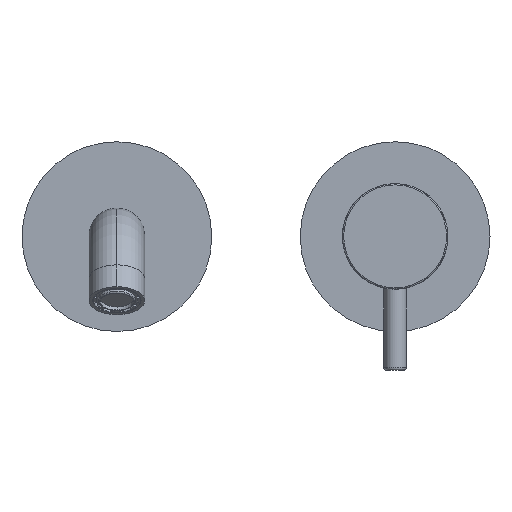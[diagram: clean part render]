
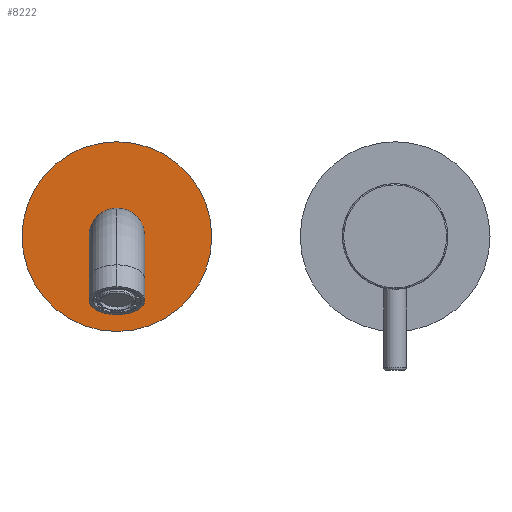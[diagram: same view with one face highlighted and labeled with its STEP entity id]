
A CAD part, top view. The second image highlights one B-rep face of the part: STEP entity #8222.
In plain terms, the highlighted planar face has unit normal (0, 0, 1).
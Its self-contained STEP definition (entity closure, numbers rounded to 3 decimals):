
#4034=CARTESIAN_POINT('',(-112.,0.,45.7));
#4035=DIRECTION('',(0.,0.,1.));
#4036=DIRECTION('',(0.,-1.,0.));
#4037=AXIS2_PLACEMENT_3D('',#4034,#4035,#4036);
#4099=CARTESIAN_POINT('',(-112.,0.,45.7));
#4100=DIRECTION('',(0.,0.,1.));
#4101=DIRECTION('',(-1.,0.,0.));
#4102=AXIS2_PLACEMENT_3D('',#4099,#4100,#4101);
#4104=CARTESIAN_POINT('',(-112.,0.,45.7));
#4105=DIRECTION('',(0.,0.,-1.));
#4106=DIRECTION('',(-1.,0.,0.));
#4107=AXIS2_PLACEMENT_3D('',#4104,#4105,#4106);
#4203=CARTESIAN_POINT('',(-112.,0.,45.7));
#4204=DIRECTION('',(0.,0.,1.));
#4205=DIRECTION('',(0.,1.,0.));
#4206=AXIS2_PLACEMENT_3D('',#4203,#4204,#4205);
#6190=CARTESIAN_POINT('',(-149.5,0.,45.7));
#6192=VERTEX_POINT('',#6190);
#6194=CARTESIAN_POINT('',(-74.5,0.,45.7));
#6196=VERTEX_POINT('',#6194);
#6201=CARTESIAN_POINT('',(-112.,11.,45.7));
#6202=CARTESIAN_POINT('',(-112.,-11.,45.7));
#6203=VERTEX_POINT('',#6201);
#6204=VERTEX_POINT('',#6202);
#8206=CARTESIAN_POINT('',(-112.,0.,45.7));
#8207=DIRECTION('',(0.,0.,1.));
#8208=DIRECTION('',(-1.,0.,0.));
#8209=AXIS2_PLACEMENT_3D('',#8206,#8207,#8208);
#8210=PLANE('',#8209);
#8212=ORIENTED_EDGE('',*,*,#8211,.F.);
#8214=ORIENTED_EDGE('',*,*,#8213,.T.);
#8215=EDGE_LOOP('',(#8212,#8214));
#8216=FACE_OUTER_BOUND('',#8215,.F.);
#8218=ORIENTED_EDGE('',*,*,#8217,.T.);
#8219=ORIENTED_EDGE('',*,*,#8192,.T.);
#8220=EDGE_LOOP('',(#8218,#8219));
#8221=FACE_BOUND('',#8220,.F.);
#8222=ADVANCED_FACE('',(#8216,#8221),#8210,.T.);
#4038=CIRCLE('',#4037,11.);
#4103=CIRCLE('',#4102,37.5);
#4108=CIRCLE('',#4107,37.5);
#4207=CIRCLE('',#4206,11.);
#8192=EDGE_CURVE('',#6204,#6203,#4038,.T.);
#8211=EDGE_CURVE('',#6192,#6196,#4103,.T.);
#8213=EDGE_CURVE('',#6192,#6196,#4108,.T.);
#8217=EDGE_CURVE('',#6203,#6204,#4207,.T.);
